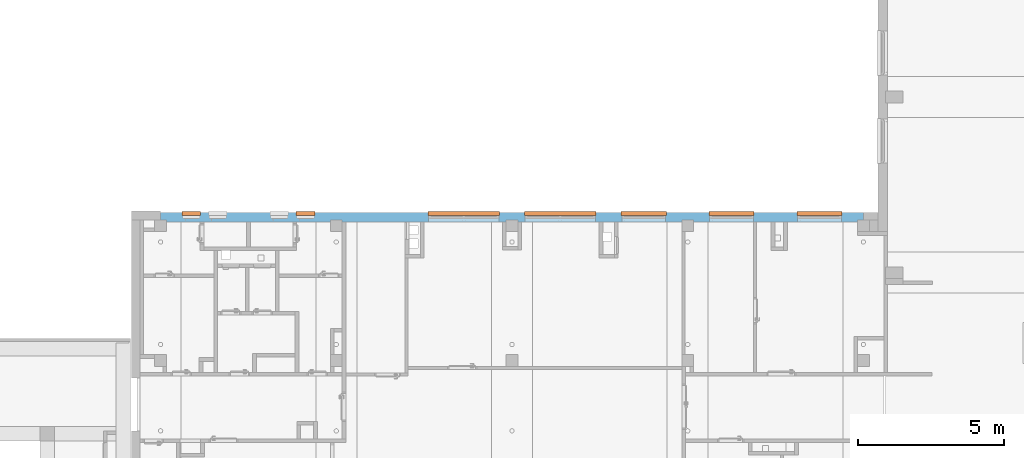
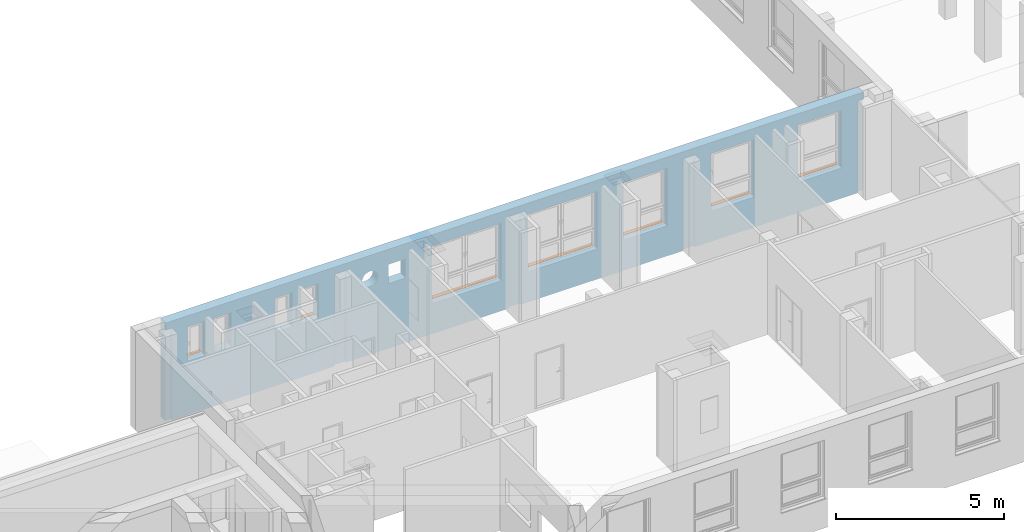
# One storey, part 37 of 50: 7 proxies, 11 openings, plus 1 element that does not belong to this part.
"""IFC4 building model written with IfcOpenShell, lengths in metres."""

from ifc_helpers import new_model, entity, si_unit, converted_unit, derived_unit, frame, frame_2d, origin, origin_with_axes, place, context, subcontext, project, spatial, polyline, rectangle, outline, extrude, clip, bounded_halfspace, faceted_brep, source, transform, mapped, material, layer, layer_set, layer_usage, element, fill, save


model = new_model("IFC4")

# Units and contexts
model_context = context("Model", 3, precision=1e-05, world=origin())
body_context = subcontext(model_context, "Body", "Model", "MODEL_VIEW")
ifc_project = project(units=[si_unit("LENGTHUNIT", "METRE"), si_unit("AREAUNIT", "SQUARE_METRE"), si_unit("VOLUMEUNIT", "CUBIC_METRE"), si_unit("MASSUNIT", "GRAM", prefix="KILO"), converted_unit("PLANEANGLEUNIT", "DEGREE", entity("IfcPlaneAngleMeasure", 0.0174532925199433), si_unit("PLANEANGLEUNIT", "RADIAN"), dimensions=[0, 0, 0, 0, 0, 0, 0]), derived_unit("THERMALTRANSMITTANCEUNIT", [(si_unit("POWERUNIT", "WATT"), 1), (si_unit("THERMODYNAMICTEMPERATUREUNIT", "KELVIN"), -1), (si_unit("LENGTHUNIT", "METRE"), -2)]), derived_unit("VOLUMETRICFLOWRATEUNIT", [(si_unit("LENGTHUNIT", "METRE"), 3), (converted_unit("TIMEUNIT", "hour", entity("IfcTimeMeasure", 3600.0), si_unit("TIMEUNIT", "SECOND"), dimensions=[0, 0, 1, 0, 0, 0, 0]), -1), (si_unit("LENGTHUNIT", "METRE"), -1)])], contexts=[model_context])

# Site, building, storey
site_placement = place(None, origin())
site = spatial("IfcSite", under=ifc_project, at=site_placement, Name="3. ASŘ", CompositionType="ELEMENT")
building_placement = place(site_placement, origin())
building = spatial("IfcBuilding", under=site, at=building_placement, Name="Pavilon C", CompositionType="ELEMENT")
storey_placement = place(building_placement, frame((0.0, 0.0, 3.6)))
storey = spatial("IfcBuildingStorey", under=building, at=storey_placement, Name="Půdorys 2.NP", CompositionType="ELEMENT", Elevation=3.6)

# Wall, openings, proxies
ifc_material_1 = material(Name="ZELEZOBETONOVÁ KCE")
ifc_layer = layer(ifc_material_1, 0.32)
ifc_layer_set = layer_set([ifc_layer])
ifc_layer_usage = layer_usage(ifc_layer_set, "AXIS2", "POSITIVE", 0.0)
wall_placement = place(storey_placement, frame((24.0, 15.25, -0.1), z_axis=(0.0, 0.0, 1.0), x_axis=(-1.0, 0.0, 0.0)))
wall = element("IfcWall", 1, at=wall_placement, inside=storey, material=ifc_layer_usage, Name="ZELEZOBETONOVÁ KCE", context=body_context, shape_type="Clipping", body=[
    clip(clip(clip(clip(clip(extrude(rectangle(XDim=24.0, YDim=0.32, at=frame_2d((12.0, 0.16), x_axis=(1.0, 0.0))), origin_with_axes(), (0.0, 0.0, 1.0), 3.6), bounded_halfspace(frame((23.9, 0.285000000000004, 3.35), z_axis=(0.0, 0.0, 1.0), x_axis=(1.0, 0.0, 0.0)), True, origin_with_axes(), polyline([(23.8, 0.250000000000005), (24.0, 0.250000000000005), (24.0, 0.32), (23.8, 0.320000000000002), (23.8, 0.250000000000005)]))), bounded_halfspace(frame((0.0999999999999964, 0.285000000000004, 3.35), z_axis=(0.0, 0.0, 1.0), x_axis=(1.0, 0.0, 0.0)), True, origin_with_axes(), polyline([(0.0, 0.250000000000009), (0.199999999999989, 0.250000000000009), (0.199999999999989, 0.320000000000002), (0.0, 0.32), (0.0, 0.250000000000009)]))), bounded_halfspace(frame((12.0, 0.285000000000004, 3.35), z_axis=(0.0, 0.0, 1.0), x_axis=(1.0, 0.0, 0.0)), True, origin_with_axes(), polyline([(11.8, 0.250000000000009), (12.2, 0.250000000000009), (12.2, 0.32), (11.8, 0.32), (11.8, 0.250000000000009)]))), bounded_halfspace(frame((5.99999999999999, 0.285000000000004, 3.35), z_axis=(0.0, 0.0, 1.0), x_axis=(1.0, 0.0, 0.0)), True, origin_with_axes(), polyline([(5.79999999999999, 0.250000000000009), (6.19999999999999, 0.250000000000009), (6.19999999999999, 0.32), (5.79999999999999, 0.32), (5.79999999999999, 0.250000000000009)]))), bounded_halfspace(frame((18.0, 0.285000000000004, 3.35), z_axis=(0.0, 0.0, 1.0), x_axis=(1.0, 0.0, 0.0)), True, origin_with_axes(), polyline([(17.8, 0.250000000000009), (18.2, 0.250000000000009), (18.2, 0.32), (17.8, 0.32), (17.8, 0.250000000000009)]))),
])
opening_1_placement = place(wall_placement, frame((16.7, 0.0, 2.475), z_axis=(0.0, 1.0, 0.0), x_axis=(0.0, 0.0, 1.0)))
element("IfcOpeningElement", 2, at=opening_1_placement, cuts=wall, Name="Prostup stěnou", ObjectType="Opening", context=body_context, shape_type="SweptSolid", body=[
    extrude(outline(polyline([(0.274999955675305, 0.55), (0.303745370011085, 0.548493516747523), (0.332175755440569, 0.543990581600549), (0.359979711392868, 0.536540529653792), (0.386852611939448, 0.526224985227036), (0.412500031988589, 0.5131569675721), (0.436640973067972, 0.497479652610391), (0.459010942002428, 0.479364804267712), (0.479364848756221, 0.459010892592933), (0.497479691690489, 0.436640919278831), (0.513157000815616, 0.412499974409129), (0.526225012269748, 0.38685255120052), (0.536540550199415, 0.35997964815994), (0.54399059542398, 0.332175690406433), (0.548493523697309, 0.303745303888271), (0.549999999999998, 0.274999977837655), (0.548493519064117, 0.246254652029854), (0.543990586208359, 0.217824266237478), (0.536540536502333, 0.190020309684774), (0.526224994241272, 0.163147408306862), (0.51315697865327, 0.137499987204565), (0.497479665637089, 0.113359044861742), (0.479364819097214, 0.090989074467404), (0.459010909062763, 0.0706351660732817), (0.436640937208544, 0.0525203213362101), (0.412499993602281, 0.0368430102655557), (0.386852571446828, 0.0237749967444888), (0.35997966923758, 0.0134594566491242), (0.332175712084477, 0.00600940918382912), (0.303745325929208, 0.00150647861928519), (0.274999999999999, 0.0), (0.24625467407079, 0.00150647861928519), (0.217824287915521, 0.00600940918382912), (0.190020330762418, 0.0134594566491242), (0.16314742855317, 0.0237749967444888), (0.137500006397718, 0.0368430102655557), (0.113359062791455, 0.0525203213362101), (0.0909890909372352, 0.0706351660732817), (0.0706351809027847, 0.090989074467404), (0.0525203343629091, 0.113359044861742), (0.0368430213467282, 0.137499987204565), (0.0237750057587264, 0.163147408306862), (0.0134594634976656, 0.190020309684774), (0.00600941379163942, 0.217824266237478), (0.00150648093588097, 0.246254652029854), (0.0, 0.274999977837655), (0.00150647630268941, 0.303745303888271), (0.00600940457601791, 0.332175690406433), (0.0134594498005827, 0.35997964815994), (0.0237749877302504, 0.38685255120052), (0.0368429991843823, 0.412499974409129), (0.0525203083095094, 0.436640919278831), (0.0706351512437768, 0.459010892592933), (0.0909890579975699, 0.479364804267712), (0.113359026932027, 0.497479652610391), (0.137499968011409, 0.5131569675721), (0.16314738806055, 0.526224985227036), (0.19002028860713, 0.536540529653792), (0.21782424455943, 0.543990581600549), (0.246254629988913, 0.548493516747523), (0.274999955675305, 0.55)])), origin_with_axes(), (0.0, 0.0, 1.0), 0.32),
])
opening_2_placement = place(wall_placement, frame((15.75, 0.0, 2.35), z_axis=(0.0, 1.0, 0.0), x_axis=(0.0, 0.0, 1.0)))
element("IfcOpeningElement", 3, at=opening_2_placement, cuts=wall, Name="Prostup stěnou", ObjectType="Opening", context=body_context, shape_type="SweptSolid", body=[
    extrude(outline(polyline([(0.0, 0.6), (0.7, 0.6), (0.7, 0.0), (0.0, 0.0), (0.0, 0.6)])), origin_with_axes(), (0.0, 0.0, 1.0), 0.32),
])
opening_3_placement = place(wall_placement, frame((12.45, 0.0, 1.1), z_axis=(0.0, 1.0, 0.0), x_axis=(0.0, 0.0, 1.0)))
opening_3 = element("IfcOpeningElement", 4, at=opening_3_placement, cuts=wall, Name="Okenní otvor", ObjectType="Opening", context=body_context, shape_type="SweptSolid", body=[
    extrude(outline(polyline([(0.0, 2.4), (2.1, 2.4), (2.1, 0.0), (0.0, 0.0), (0.0, 2.4)])), origin_with_axes(), (0.0, 0.0, 1.0), 0.32),
])
opening_4_placement = place(wall_placement, frame((9.15000000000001, 0.0, 1.1), z_axis=(0.0, 1.0, 0.0), x_axis=(0.0, 0.0, 1.0)))
opening_4 = element("IfcOpeningElement", 5, at=opening_4_placement, cuts=wall, Name="Okenní otvor", ObjectType="Opening", context=body_context, shape_type="SweptSolid", body=[
    extrude(outline(polyline([(0.0, 2.4), (2.1, 2.4), (2.1, 0.0), (0.0, 0.0), (0.0, 2.4)])), origin_with_axes(), (0.0, 0.0, 1.0), 0.32),
])
opening_5_placement = place(wall_placement, frame((0.750000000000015, 0.0, 1.1), z_axis=(0.0, 1.0, 0.0), x_axis=(0.0, 0.0, 1.0)))
opening_5 = element("IfcOpeningElement", 6, at=opening_5_placement, cuts=wall, Name="Okenní otvor", ObjectType="Opening", context=body_context, shape_type="SweptSolid", body=[
    extrude(outline(polyline([(0.0, 1.5), (2.1, 1.5), (2.1, 0.0), (0.0, 0.0), (0.0, 1.5)])), origin_with_axes(), (0.0, 0.0, 1.0), 0.32),
])
opening_6_placement = place(wall_placement, frame((3.75000000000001, 0.0, 1.1), z_axis=(0.0, 1.0, 0.0), x_axis=(0.0, 0.0, 1.0)))
opening_6 = element("IfcOpeningElement", 7, at=opening_6_placement, cuts=wall, Name="Okenní otvor", ObjectType="Opening", context=body_context, shape_type="SweptSolid", body=[
    extrude(outline(polyline([(0.0, 1.5), (2.1, 1.5), (2.1, 0.0), (0.0, 0.0), (0.0, 1.5)])), origin_with_axes(), (0.0, 0.0, 1.0), 0.32),
])
opening_7_placement = place(wall_placement, frame((6.75000000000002, 0.0, 1.1), z_axis=(0.0, 1.0, 0.0), x_axis=(0.0, 0.0, 1.0)))
opening_7 = element("IfcOpeningElement", 8, at=opening_7_placement, cuts=wall, Name="Okenní otvor", ObjectType="Opening", context=body_context, shape_type="SweptSolid", body=[
    extrude(outline(polyline([(0.0, 1.5), (2.1, 1.5), (2.1, 0.0), (0.0, 0.0), (0.0, 1.5)])), origin_with_axes(), (0.0, 0.0, 1.0), 0.32),
])
opening_8_placement = place(wall_placement, frame((22.65, 0.0, 1.95), z_axis=(0.0, 1.0, 0.0), x_axis=(0.0, 0.0, 1.0)))
opening_8 = element("IfcOpeningElement", 9, at=opening_8_placement, cuts=wall, Name="Okenní otvor", ObjectType="Opening", context=body_context, shape_type="SweptSolid", body=[
    extrude(outline(polyline([(0.0, 0.6), (1.25, 0.6), (1.25, 0.0), (0.0, 0.0), (0.0, 0.6)])), origin_with_axes(), (0.0, 0.0, 1.0), 0.32),
])
opening_9_placement = place(wall_placement, frame((18.75, 0.0, 1.95), z_axis=(0.0, 1.0, 0.0), x_axis=(0.0, 0.0, 1.0)))
opening_9 = element("IfcOpeningElement", 10, at=opening_9_placement, cuts=wall, Name="Okenní otvor", ObjectType="Opening", context=body_context, shape_type="SweptSolid", body=[
    extrude(outline(polyline([(0.0, 0.6), (1.25, 0.6), (1.25, 0.0), (0.0, 0.0), (0.0, 0.6)])), origin_with_axes(), (0.0, 0.0, 1.0), 0.32),
])
opening_10_placement = place(wall_placement, frame((19.65, 0.0, 1.95), z_axis=(0.0, 1.0, 0.0), x_axis=(0.0, 0.0, 1.0)))
element("IfcOpeningElement", 11, at=opening_10_placement, cuts=wall, Name="Okenní otvor", ObjectType="Opening", context=body_context, shape_type="SweptSolid", body=[
    extrude(outline(polyline([(0.0, 0.6), (1.25, 0.6), (1.25, 0.0), (0.0, 0.0), (0.0, 0.6)])), origin_with_axes(), (0.0, 0.0, 1.0), 0.32),
])
opening_11_placement = place(wall_placement, frame((21.75, 0.0, 1.95), z_axis=(0.0, 1.0, 0.0), x_axis=(0.0, 0.0, 1.0)))
element("IfcOpeningElement", 12, at=opening_11_placement, cuts=wall, Name="Okenní otvor", ObjectType="Opening", context=body_context, shape_type="SweptSolid", body=[
    extrude(outline(polyline([(0.0, 0.6), (1.25, 0.6), (1.25, 0.0), (0.0, 0.0), (0.0, 0.6)])), origin_with_axes(), (0.0, 0.0, 1.0), 0.32),
])
ifc_material_2 = material(Name="PLECH")
shared_shape_1 = source(origin_with_axes(), body_context, "Body", "Brep", [
    faceted_brep([(1.81898940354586e-15, 0.0, 0.0), (1.81898940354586e-15, 0.1, 0.0), (1.81898940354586e-15, 0.1, 0.005), (1.81898940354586e-15, 0.0, 0.005), (2.4, 0.0, 0.0), (2.4, 0.0, 0.005), (2.4, 0.1, 0.005), (2.4, 0.1, 0.0), (-0.0199999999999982, 0.0, 0.0), (-0.0199999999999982, -0.035, 0.0), (2.42, -0.035, 0.0), (2.42, 0.0, 0.0), (2.42, 0.0, 0.005), (2.42, -0.04, 0.005), (-0.0199999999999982, -0.04, 0.005), (-0.0199999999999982, 0.0, 0.005), (-0.0199999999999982, -0.04, -0.025), (-0.0199999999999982, -0.035, -0.025), (2.42, -0.035, -0.025), (2.42, -0.04, -0.025)], [[[0, 1, 2, 3]], [[4, 5, 6, 7]], [[1, 0, 8, 9, 10, 11, 4, 7]], [[2, 1, 7, 6]], [[3, 2, 6, 5, 12, 13, 14, 15]], [[8, 15, 14, 16, 17, 9]], [[11, 10, 18, 19, 13, 12]], [[15, 8, 0, 3]], [[5, 4, 11, 12]], [[16, 14, 13, 19]], [[17, 16, 19, 18]], [[9, 17, 18, 10]]], orient=[[False], [False], [False], [False], [False], [False], [False], [False], [False], [False], [False], [False]]),
    faceted_brep([(-0.0199999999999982, 0.0, 0.0), (-0.0199999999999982, 0.1, 0.0), (-0.0199999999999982, 0.1, 0.005), (-0.0199999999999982, 0.0, 0.005), (1.81898940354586e-15, 0.0, 0.0), (1.81898940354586e-15, 0.0, 0.005), (1.81898940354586e-15, 0.1, 0.005), (1.81898940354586e-15, 0.1, 0.0)], [[[0, 1, 2, 3]], [[4, 5, 6, 7]], [[1, 0, 4, 7]], [[2, 1, 7, 6]], [[3, 2, 6, 5]], [[0, 3, 5, 4]]], orient=[[False], [False], [False], [False], [False], [False]]),
    faceted_brep([(2.4, 0.0, 0.0), (2.4, 0.1, 0.0), (2.4, 0.1, 0.005), (2.4, 0.0, 0.005), (2.42, 0.0, 0.0), (2.42, 0.0, 0.005), (2.42, 0.1, 0.005), (2.42, 0.1, 0.0)], [[[0, 1, 2, 3]], [[4, 5, 6, 7]], [[1, 0, 4, 7]], [[2, 1, 7, 6]], [[3, 2, 6, 5]], [[0, 3, 5, 4]]], orient=[[False], [False], [False], [False], [False], [False]]),
])
proxy_1_placement = place(opening_3_placement, frame((0.0, 0.0, 0.0), z_axis=(1.0, 0.0, 0.0), x_axis=(0.0, 1.0, 0.0)))
proxy_1 = element("IfcBuildingElementProxy", 13, at=proxy_1_placement, inside=storey, material=ifc_material_2, Name="Parapet vnější", context=body_context, shape_type="MappedRepresentation", body=[
    mapped(shared_shape_1, transform((0.0, 0.0, 0.0), x_axis=(1.0, 0.0, 0.0), y_axis=(0.0, 1.0, 0.0), z_axis=(0.0, 0.0, 1.0), scale=1.0)),
])
fill(opening_3, proxy_1)
ifc_material_3 = material(Name="PLECH")
shared_shape_2 = source(origin_with_axes(), body_context, "Body", "Brep", [
    faceted_brep([(1.81898940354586e-15, 0.0, 0.0), (1.81898940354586e-15, 0.1, 0.0), (1.81898940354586e-15, 0.1, 0.005), (1.81898940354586e-15, 0.0, 0.005), (2.4, 0.0, 0.0), (2.4, 0.0, 0.005), (2.4, 0.1, 0.005), (2.4, 0.1, 0.0), (-0.0199999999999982, 0.0, 0.0), (-0.0199999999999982, -0.035, 0.0), (2.42, -0.035, 0.0), (2.42, 0.0, 0.0), (2.42, 0.0, 0.005), (2.42, -0.04, 0.005), (-0.0199999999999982, -0.04, 0.005), (-0.0199999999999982, 0.0, 0.005), (-0.0199999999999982, -0.04, -0.025), (-0.0199999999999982, -0.035, -0.025), (2.42, -0.035, -0.025), (2.42, -0.04, -0.025)], [[[0, 1, 2, 3]], [[4, 5, 6, 7]], [[1, 0, 8, 9, 10, 11, 4, 7]], [[2, 1, 7, 6]], [[3, 2, 6, 5, 12, 13, 14, 15]], [[8, 15, 14, 16, 17, 9]], [[11, 10, 18, 19, 13, 12]], [[15, 8, 0, 3]], [[5, 4, 11, 12]], [[16, 14, 13, 19]], [[17, 16, 19, 18]], [[9, 17, 18, 10]]], orient=[[False], [False], [False], [False], [False], [False], [False], [False], [False], [False], [False], [False]]),
    faceted_brep([(-0.0199999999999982, 0.0, 0.0), (-0.0199999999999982, 0.1, 0.0), (-0.0199999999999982, 0.1, 0.005), (-0.0199999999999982, 0.0, 0.005), (1.81898940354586e-15, 0.0, 0.0), (1.81898940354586e-15, 0.0, 0.005), (1.81898940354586e-15, 0.1, 0.005), (1.81898940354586e-15, 0.1, 0.0)], [[[0, 1, 2, 3]], [[4, 5, 6, 7]], [[1, 0, 4, 7]], [[2, 1, 7, 6]], [[3, 2, 6, 5]], [[0, 3, 5, 4]]], orient=[[False], [False], [False], [False], [False], [False]]),
    faceted_brep([(2.4, 0.0, 0.0), (2.4, 0.1, 0.0), (2.4, 0.1, 0.005), (2.4, 0.0, 0.005), (2.42, 0.0, 0.0), (2.42, 0.0, 0.005), (2.42, 0.1, 0.005), (2.42, 0.1, 0.0)], [[[0, 1, 2, 3]], [[4, 5, 6, 7]], [[1, 0, 4, 7]], [[2, 1, 7, 6]], [[3, 2, 6, 5]], [[0, 3, 5, 4]]], orient=[[False], [False], [False], [False], [False], [False]]),
])
proxy_2_placement = place(opening_4_placement, frame((0.0, 0.0, 0.0), z_axis=(1.0, 0.0, 0.0), x_axis=(0.0, 1.0, 0.0)))
proxy_2 = element("IfcBuildingElementProxy", 14, at=proxy_2_placement, inside=storey, material=ifc_material_3, Name="Parapet vnější", context=body_context, shape_type="MappedRepresentation", body=[
    mapped(shared_shape_2, transform((0.0, 0.0, 0.0), x_axis=(1.0, 0.0, 0.0), y_axis=(0.0, 1.0, 0.0), z_axis=(0.0, 0.0, 1.0), scale=1.0)),
])
fill(opening_4, proxy_2)
ifc_material_4 = material(Name="PLECH")
shared_shape_3 = source(origin_with_axes(), body_context, "Body", "Brep", [
    faceted_brep([(0.0, 0.0, 0.0), (0.0, 0.1, 0.0), (0.0, 0.1, 0.005), (0.0, 0.0, 0.005), (1.5, 0.0, 0.0), (1.5, 0.0, 0.005), (1.5, 0.1, 0.005), (1.5, 0.1, 0.0), (-0.02, 0.0, 0.0), (-0.02, -0.035, 0.0), (1.52, -0.035, 0.0), (1.52, 0.0, 0.0), (1.52, 0.0, 0.005), (1.52, -0.04, 0.005), (-0.02, -0.04, 0.005), (-0.02, 0.0, 0.005), (-0.02, -0.04, -0.025), (-0.02, -0.035, -0.025), (1.52, -0.035, -0.025), (1.52, -0.04, -0.025)], [[[0, 1, 2, 3]], [[4, 5, 6, 7]], [[1, 0, 8, 9, 10, 11, 4, 7]], [[2, 1, 7, 6]], [[3, 2, 6, 5, 12, 13, 14, 15]], [[8, 15, 14, 16, 17, 9]], [[11, 10, 18, 19, 13, 12]], [[15, 8, 0, 3]], [[5, 4, 11, 12]], [[16, 14, 13, 19]], [[17, 16, 19, 18]], [[9, 17, 18, 10]]], orient=[[False], [False], [False], [False], [False], [False], [False], [False], [False], [False], [False], [False]]),
    faceted_brep([(-0.02, 0.0, 0.0), (-0.02, 0.1, 0.0), (-0.02, 0.1, 0.005), (-0.02, 0.0, 0.005), (0.0, 0.0, 0.0), (0.0, 0.0, 0.005), (0.0, 0.1, 0.005), (0.0, 0.1, 0.0)], [[[0, 1, 2, 3]], [[4, 5, 6, 7]], [[1, 0, 4, 7]], [[2, 1, 7, 6]], [[3, 2, 6, 5]], [[0, 3, 5, 4]]], orient=[[False], [False], [False], [False], [False], [False]]),
    faceted_brep([(1.5, 0.0, 0.0), (1.5, 0.1, 0.0), (1.5, 0.1, 0.005), (1.5, 0.0, 0.005), (1.52, 0.0, 0.0), (1.52, 0.0, 0.005), (1.52, 0.1, 0.005), (1.52, 0.1, 0.0)], [[[0, 1, 2, 3]], [[4, 5, 6, 7]], [[1, 0, 4, 7]], [[2, 1, 7, 6]], [[3, 2, 6, 5]], [[0, 3, 5, 4]]], orient=[[False], [False], [False], [False], [False], [False]]),
])
proxy_3_placement = place(opening_5_placement, frame((0.0, 0.0, 0.0), z_axis=(1.0, 0.0, 0.0), x_axis=(0.0, 1.0, 0.0)))
proxy_3 = element("IfcBuildingElementProxy", 15, at=proxy_3_placement, inside=storey, material=ifc_material_4, Name="Parapet vnější", context=body_context, shape_type="MappedRepresentation", body=[
    mapped(shared_shape_3, transform((0.0, 0.0, 0.0), x_axis=(1.0, 0.0, 0.0), y_axis=(0.0, 1.0, 0.0), z_axis=(0.0, 0.0, 1.0), scale=1.0)),
])
fill(opening_5, proxy_3)
ifc_material_5 = material(Name="PLECH")
shared_shape_4 = source(origin_with_axes(), body_context, "Body", "Brep", [
    faceted_brep([(0.0, 0.0, 0.0), (0.0, 0.1, 0.0), (0.0, 0.1, 0.005), (0.0, 0.0, 0.005), (1.5, 0.0, 0.0), (1.5, 0.0, 0.005), (1.5, 0.1, 0.005), (1.5, 0.1, 0.0), (-0.02, 0.0, 0.0), (-0.02, -0.035, 0.0), (1.52, -0.035, 0.0), (1.52, 0.0, 0.0), (1.52, 0.0, 0.005), (1.52, -0.04, 0.005), (-0.02, -0.04, 0.005), (-0.02, 0.0, 0.005), (-0.02, -0.04, -0.025), (-0.02, -0.035, -0.025), (1.52, -0.035, -0.025), (1.52, -0.04, -0.025)], [[[0, 1, 2, 3]], [[4, 5, 6, 7]], [[1, 0, 8, 9, 10, 11, 4, 7]], [[2, 1, 7, 6]], [[3, 2, 6, 5, 12, 13, 14, 15]], [[8, 15, 14, 16, 17, 9]], [[11, 10, 18, 19, 13, 12]], [[15, 8, 0, 3]], [[5, 4, 11, 12]], [[16, 14, 13, 19]], [[17, 16, 19, 18]], [[9, 17, 18, 10]]], orient=[[False], [False], [False], [False], [False], [False], [False], [False], [False], [False], [False], [False]]),
    faceted_brep([(-0.02, 0.0, 0.0), (-0.02, 0.1, 0.0), (-0.02, 0.1, 0.005), (-0.02, 0.0, 0.005), (0.0, 0.0, 0.0), (0.0, 0.0, 0.005), (0.0, 0.1, 0.005), (0.0, 0.1, 0.0)], [[[0, 1, 2, 3]], [[4, 5, 6, 7]], [[1, 0, 4, 7]], [[2, 1, 7, 6]], [[3, 2, 6, 5]], [[0, 3, 5, 4]]], orient=[[False], [False], [False], [False], [False], [False]]),
    faceted_brep([(1.5, 0.0, 0.0), (1.5, 0.1, 0.0), (1.5, 0.1, 0.005), (1.5, 0.0, 0.005), (1.52, 0.0, 0.0), (1.52, 0.0, 0.005), (1.52, 0.1, 0.005), (1.52, 0.1, 0.0)], [[[0, 1, 2, 3]], [[4, 5, 6, 7]], [[1, 0, 4, 7]], [[2, 1, 7, 6]], [[3, 2, 6, 5]], [[0, 3, 5, 4]]], orient=[[False], [False], [False], [False], [False], [False]]),
])
proxy_4_placement = place(opening_6_placement, frame((0.0, 0.0, 0.0), z_axis=(1.0, 0.0, 0.0), x_axis=(0.0, 1.0, 0.0)))
proxy_4 = element("IfcBuildingElementProxy", 16, at=proxy_4_placement, inside=storey, material=ifc_material_5, Name="Parapet vnější", context=body_context, shape_type="MappedRepresentation", body=[
    mapped(shared_shape_4, transform((0.0, 0.0, 0.0), x_axis=(1.0, 0.0, 0.0), y_axis=(0.0, 1.0, 0.0), z_axis=(0.0, 0.0, 1.0), scale=1.0)),
])
fill(opening_6, proxy_4)
ifc_material_6 = material(Name="PLECH")
shared_shape_5 = source(origin_with_axes(), body_context, "Body", "Brep", [
    faceted_brep([(0.0, 0.0, 0.0), (0.0, 0.1, 0.0), (0.0, 0.1, 0.005), (0.0, 0.0, 0.005), (1.5, 0.0, 0.0), (1.5, 0.0, 0.005), (1.5, 0.1, 0.005), (1.5, 0.1, 0.0), (-0.02, 0.0, 0.0), (-0.02, -0.035, 0.0), (1.52, -0.035, 0.0), (1.52, 0.0, 0.0), (1.52, 0.0, 0.005), (1.52, -0.04, 0.005), (-0.02, -0.04, 0.005), (-0.02, 0.0, 0.005), (-0.02, -0.04, -0.025), (-0.02, -0.035, -0.025), (1.52, -0.035, -0.025), (1.52, -0.04, -0.025)], [[[0, 1, 2, 3]], [[4, 5, 6, 7]], [[1, 0, 8, 9, 10, 11, 4, 7]], [[2, 1, 7, 6]], [[3, 2, 6, 5, 12, 13, 14, 15]], [[8, 15, 14, 16, 17, 9]], [[11, 10, 18, 19, 13, 12]], [[15, 8, 0, 3]], [[5, 4, 11, 12]], [[16, 14, 13, 19]], [[17, 16, 19, 18]], [[9, 17, 18, 10]]], orient=[[False], [False], [False], [False], [False], [False], [False], [False], [False], [False], [False], [False]]),
    faceted_brep([(-0.02, 0.0, 0.0), (-0.02, 0.1, 0.0), (-0.02, 0.1, 0.005), (-0.02, 0.0, 0.005), (0.0, 0.0, 0.0), (0.0, 0.0, 0.005), (0.0, 0.1, 0.005), (0.0, 0.1, 0.0)], [[[0, 1, 2, 3]], [[4, 5, 6, 7]], [[1, 0, 4, 7]], [[2, 1, 7, 6]], [[3, 2, 6, 5]], [[0, 3, 5, 4]]], orient=[[False], [False], [False], [False], [False], [False]]),
    faceted_brep([(1.5, 0.0, 0.0), (1.5, 0.1, 0.0), (1.5, 0.1, 0.005), (1.5, 0.0, 0.005), (1.52, 0.0, 0.0), (1.52, 0.0, 0.005), (1.52, 0.1, 0.005), (1.52, 0.1, 0.0)], [[[0, 1, 2, 3]], [[4, 5, 6, 7]], [[1, 0, 4, 7]], [[2, 1, 7, 6]], [[3, 2, 6, 5]], [[0, 3, 5, 4]]], orient=[[False], [False], [False], [False], [False], [False]]),
])
proxy_5_placement = place(opening_7_placement, frame((0.0, 0.0, 0.0), z_axis=(1.0, 0.0, 0.0), x_axis=(0.0, 1.0, 0.0)))
proxy_5 = element("IfcBuildingElementProxy", 17, at=proxy_5_placement, inside=storey, material=ifc_material_6, Name="Parapet vnější", context=body_context, shape_type="MappedRepresentation", body=[
    mapped(shared_shape_5, transform((0.0, 0.0, 0.0), x_axis=(1.0, 0.0, 0.0), y_axis=(0.0, 1.0, 0.0), z_axis=(0.0, 0.0, 1.0), scale=1.0)),
])
fill(opening_7, proxy_5)
ifc_material_7 = material(Name="PLECH")
shared_shape_6 = source(origin_with_axes(), body_context, "Body", "Brep", [
    faceted_brep([(3.18323145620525e-15, 0.0, 0.0), (3.18323145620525e-15, 0.1, 0.0), (3.18323145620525e-15, 0.1, 0.005), (3.18323145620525e-15, 0.0, 0.005), (0.600000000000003, 0.0, 0.0), (0.600000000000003, 0.0, 0.005), (0.600000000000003, 0.1, 0.005), (0.600000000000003, 0.1, 0.0), (-0.0199999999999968, 0.0, 0.0), (-0.0199999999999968, -0.035, 0.0), (0.620000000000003, -0.035, 0.0), (0.620000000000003, 0.0, 0.0), (0.620000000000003, 0.0, 0.005), (0.620000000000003, -0.04, 0.005), (-0.0199999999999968, -0.04, 0.005), (-0.0199999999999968, 0.0, 0.005), (-0.0199999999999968, -0.04, -0.025), (-0.0199999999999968, -0.035, -0.025), (0.620000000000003, -0.035, -0.025), (0.620000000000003, -0.04, -0.025)], [[[0, 1, 2, 3]], [[4, 5, 6, 7]], [[1, 0, 8, 9, 10, 11, 4, 7]], [[2, 1, 7, 6]], [[3, 2, 6, 5, 12, 13, 14, 15]], [[8, 15, 14, 16, 17, 9]], [[11, 10, 18, 19, 13, 12]], [[15, 8, 0, 3]], [[5, 4, 11, 12]], [[16, 14, 13, 19]], [[17, 16, 19, 18]], [[9, 17, 18, 10]]], orient=[[False], [False], [False], [False], [False], [False], [False], [False], [False], [False], [False], [False]]),
    faceted_brep([(-0.0199999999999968, 0.0, 0.0), (-0.0199999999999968, 0.1, 0.0), (-0.0199999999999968, 0.1, 0.005), (-0.0199999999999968, 0.0, 0.005), (3.18323145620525e-15, 0.0, 0.0), (3.18323145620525e-15, 0.0, 0.005), (3.18323145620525e-15, 0.1, 0.005), (3.18323145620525e-15, 0.1, 0.0)], [[[0, 1, 2, 3]], [[4, 5, 6, 7]], [[1, 0, 4, 7]], [[2, 1, 7, 6]], [[3, 2, 6, 5]], [[0, 3, 5, 4]]], orient=[[False], [False], [False], [False], [False], [False]]),
    faceted_brep([(0.600000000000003, 0.0, 0.0), (0.600000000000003, 0.1, 0.0), (0.600000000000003, 0.1, 0.005), (0.600000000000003, 0.0, 0.005), (0.620000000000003, 0.0, 0.0), (0.620000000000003, 0.0, 0.005), (0.620000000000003, 0.1, 0.005), (0.620000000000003, 0.1, 0.0)], [[[0, 1, 2, 3]], [[4, 5, 6, 7]], [[1, 0, 4, 7]], [[2, 1, 7, 6]], [[3, 2, 6, 5]], [[0, 3, 5, 4]]], orient=[[False], [False], [False], [False], [False], [False]]),
])
proxy_6_placement = place(opening_8_placement, frame((0.0, 0.0, 0.0), z_axis=(1.0, 0.0, 0.0), x_axis=(0.0, 1.0, 0.0)))
proxy_6 = element("IfcBuildingElementProxy", 18, at=proxy_6_placement, inside=storey, material=ifc_material_7, Name="f", context=body_context, shape_type="MappedRepresentation", body=[
    mapped(shared_shape_6, transform((0.0, 0.0, 0.0), x_axis=(1.0, 0.0, 0.0), y_axis=(0.0, 1.0, 0.0), z_axis=(0.0, 0.0, 1.0), scale=1.0)),
])
fill(opening_8, proxy_6)
ifc_material_8 = material(Name="PLECH")
shared_shape_7 = source(origin_with_axes(), body_context, "Body", "Brep", [
    faceted_brep([(3.63797880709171e-15, 0.0, 0.0), (3.63797880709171e-15, 0.1, 0.0), (3.63797880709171e-15, 0.1, 0.005), (3.63797880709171e-15, 0.0, 0.005), (0.600000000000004, 0.0, 0.0), (0.600000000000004, 0.0, 0.005), (0.600000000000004, 0.1, 0.005), (0.600000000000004, 0.1, 0.0), (-0.0199999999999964, 0.0, 0.0), (-0.0199999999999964, -0.035, 0.0), (0.620000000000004, -0.035, 0.0), (0.620000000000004, 0.0, 0.0), (0.620000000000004, 0.0, 0.005), (0.620000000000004, -0.04, 0.005), (-0.0199999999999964, -0.04, 0.005), (-0.0199999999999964, 0.0, 0.005), (-0.0199999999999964, -0.04, -0.025), (-0.0199999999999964, -0.035, -0.025), (0.620000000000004, -0.035, -0.025), (0.620000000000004, -0.04, -0.025)], [[[0, 1, 2, 3]], [[4, 5, 6, 7]], [[1, 0, 8, 9, 10, 11, 4, 7]], [[2, 1, 7, 6]], [[3, 2, 6, 5, 12, 13, 14, 15]], [[8, 15, 14, 16, 17, 9]], [[11, 10, 18, 19, 13, 12]], [[15, 8, 0, 3]], [[5, 4, 11, 12]], [[16, 14, 13, 19]], [[17, 16, 19, 18]], [[9, 17, 18, 10]]], orient=[[False], [False], [False], [False], [False], [False], [False], [False], [False], [False], [False], [False]]),
    faceted_brep([(-0.0199999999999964, 0.0, 0.0), (-0.0199999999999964, 0.1, 0.0), (-0.0199999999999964, 0.1, 0.005), (-0.0199999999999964, 0.0, 0.005), (3.63797880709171e-15, 0.0, 0.0), (3.63797880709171e-15, 0.0, 0.005), (3.63797880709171e-15, 0.1, 0.005), (3.63797880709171e-15, 0.1, 0.0)], [[[0, 1, 2, 3]], [[4, 5, 6, 7]], [[1, 0, 4, 7]], [[2, 1, 7, 6]], [[3, 2, 6, 5]], [[0, 3, 5, 4]]], orient=[[False], [False], [False], [False], [False], [False]]),
    faceted_brep([(0.600000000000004, 0.0, 0.0), (0.600000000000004, 0.1, 0.0), (0.600000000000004, 0.1, 0.005), (0.600000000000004, 0.0, 0.005), (0.620000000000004, 0.0, 0.0), (0.620000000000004, 0.0, 0.005), (0.620000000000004, 0.1, 0.005), (0.620000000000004, 0.1, 0.0)], [[[0, 1, 2, 3]], [[4, 5, 6, 7]], [[1, 0, 4, 7]], [[2, 1, 7, 6]], [[3, 2, 6, 5]], [[0, 3, 5, 4]]], orient=[[False], [False], [False], [False], [False], [False]]),
])
proxy_7_placement = place(opening_9_placement, frame((0.0, 0.0, 0.0), z_axis=(1.0, 0.0, 0.0), x_axis=(0.0, 1.0, 0.0)))
proxy_7 = element("IfcBuildingElementProxy", 19, at=proxy_7_placement, inside=storey, material=ifc_material_8, Name="f", context=body_context, shape_type="MappedRepresentation", body=[
    mapped(shared_shape_7, transform((0.0, 0.0, 0.0), x_axis=(1.0, 0.0, 0.0), y_axis=(0.0, 1.0, 0.0), z_axis=(0.0, 0.0, 1.0), scale=1.0)),
])
fill(opening_9, proxy_7)

save(model, "model.ifc")
